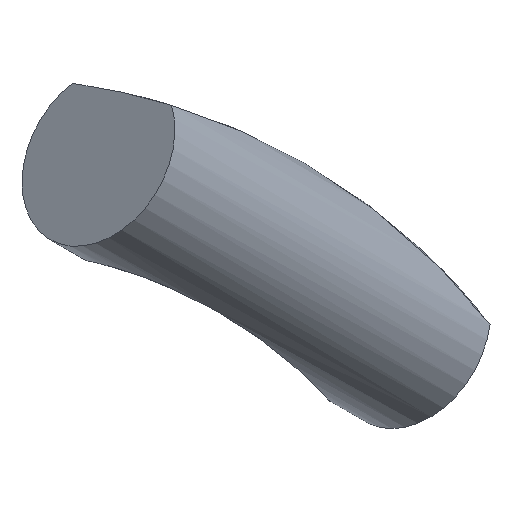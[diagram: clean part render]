
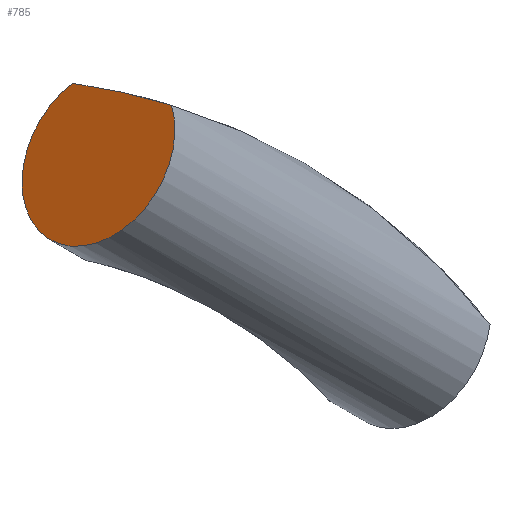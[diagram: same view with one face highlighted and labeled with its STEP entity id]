
A CAD part, left-side view. The second image highlights one B-rep face of the part: STEP entity #785.
In plain terms, the highlighted planar face has unit normal (-0.707, 0.612, 0.354).
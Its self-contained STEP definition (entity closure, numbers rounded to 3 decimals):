
#21 = EDGE_CURVE('',#22,#24,#26,.T.);
#22 = VERTEX_POINT('',#23);
#23 = CARTESIAN_POINT('',(86.054,56.196,
    75.679));
#24 = VERTEX_POINT('',#25);
#25 = CARTESIAN_POINT('',(90.548,60.793,
    76.704));
#26 = SURFACE_CURVE('',#27,(#32,#44),.PCURVE_S1.);
#27 = CIRCLE('',#28,4.5);
#28 = AXIS2_PLACEMENT_3D('',#29,#30,#31);
#29 = CARTESIAN_POINT('',(87.825,59.598,
    73.326));
#30 = DIRECTION('',(0.707,-0.612,-0.354));
#31 = DIRECTION('',(0.655,0.756,0.));
#32 = PCURVE('',#33,#38);
#33 = CYLINDRICAL_SURFACE('',#34,4.5);
#34 = AXIS2_PLACEMENT_3D('',#35,#36,#37);
#35 = CARTESIAN_POINT('',(87.825,59.598,73.326
    ));
#36 = DIRECTION('',(0.707,-0.612,-0.354));
#37 = DIRECTION('',(0.655,0.756,0.));
#38 = DEFINITIONAL_REPRESENTATION('',(#39),#43);
#39 = LINE('',#40,#41);
#40 = CARTESIAN_POINT('',(0.,0.));
#41 = VECTOR('',#42,1.);
#42 = DIRECTION('',(1.,0.));
#43 = ( GEOMETRIC_REPRESENTATION_CONTEXT(2) 
PARAMETRIC_REPRESENTATION_CONTEXT() REPRESENTATION_CONTEXT('2D SPACE',''
  ) );
#44 = PCURVE('',#45,#50);
#45 = PLANE('',#46);
#46 = AXIS2_PLACEMENT_3D('',#47,#48,#49);
#47 = CARTESIAN_POINT('',(87.825,59.598,73.326
    ));
#48 = DIRECTION('',(0.707,-0.612,-0.354));
#49 = DIRECTION('',(0.655,0.756,0.));
#50 = DEFINITIONAL_REPRESENTATION('',(#51),#55);
#51 = CIRCLE('',#52,4.5);
#52 = AXIS2_PLACEMENT_2D('',#53,#54);
#53 = CARTESIAN_POINT('',(0.,0.));
#54 = DIRECTION('',(1.,0.));
#55 = ( GEOMETRIC_REPRESENTATION_CONTEXT(2) 
PARAMETRIC_REPRESENTATION_CONTEXT() REPRESENTATION_CONTEXT('2D SPACE',''
  ) );
#97 = CYLINDRICAL_SURFACE('',#98,30.);
#98 = AXIS2_PLACEMENT_3D('',#99,#100,#101);
#99 = CARTESIAN_POINT('',(81.,65.,47.));
#100 = DIRECTION('',(1.,0.,0.));
#101 = DIRECTION('',(0.,0.,1.));
#785 = ADVANCED_FACE('',(#786),#45,.F.);
#786 = FACE_BOUND('',#787,.T.);
#787 = EDGE_LOOP('',(#788,#831));
#788 = ORIENTED_EDGE('',*,*,#789,.T.);
#789 = EDGE_CURVE('',#22,#24,#790,.T.);
#790 = SURFACE_CURVE('',#791,(#795,#802),.PCURVE_S1.);
#791 = ( BOUNDED_CURVE() B_SPLINE_CURVE(2,(#792,#793,#794),
.UNSPECIFIED.,.F.,.F.) B_SPLINE_CURVE_WITH_KNOTS((3,3),(68.061,
77.066),.PIECEWISE_BEZIER_KNOTS.) CURVE() 
GEOMETRIC_REPRESENTATION_ITEM() RATIONAL_B_SPLINE_CURVE((1.,
0.997,1.)) REPRESENTATION_ITEM('') );
#792 = CARTESIAN_POINT('',(86.054,56.196,
    75.679));
#793 = CARTESIAN_POINT('',(88.357,58.454,
    76.372));
#794 = CARTESIAN_POINT('',(90.548,60.793,76.704
    ));
#795 = PCURVE('',#45,#796);
#796 = DEFINITIONAL_REPRESENTATION('',(#797),#801);
#797 = ( BOUNDED_CURVE() B_SPLINE_CURVE(2,(#798,#799,#800),
.UNSPECIFIED.,.F.,.F.) B_SPLINE_CURVE_WITH_KNOTS((3,3),(68.061,
77.066),.PIECEWISE_BEZIER_KNOTS.) CURVE() 
GEOMETRIC_REPRESENTATION_ITEM() RATIONAL_B_SPLINE_CURVE((1.,
0.997,1.)) REPRESENTATION_ITEM('') );
#798 = CARTESIAN_POINT('',(-3.732,2.515));
#799 = CARTESIAN_POINT('',(-0.517,3.256));
#800 = CARTESIAN_POINT('',(2.686,3.61));
#801 = ( GEOMETRIC_REPRESENTATION_CONTEXT(2) 
PARAMETRIC_REPRESENTATION_CONTEXT() REPRESENTATION_CONTEXT('2D SPACE',''
  ) );
#802 = PCURVE('',#97,#803);
#803 = DEFINITIONAL_REPRESENTATION('',(#804),#830);
#804 = B_SPLINE_CURVE_WITH_KNOTS('',3,(#805,#806,#807,#808,#809,#810,
    #811,#812,#813,#814,#815,#816,#817,#818,#819,#820,#821,#822,#823,
    #824,#825,#826,#827,#828,#829),.UNSPECIFIED.,.F.,.F.,(4,1,1,1,1,1,1,
    1,1,1,1,1,1,1,1,1,1,1,1,1,1,1,4),(68.061,68.47,
    68.88,69.289,69.698,70.108,
    70.517,70.926,71.336,71.745,
    72.154,72.564,72.973,73.382,
    73.792,74.201,74.61,75.02,
    75.429,75.838,76.248,76.657,
    77.066),.QUASI_UNIFORM_KNOTS.);
#805 = CARTESIAN_POINT('',(0.298,5.054));
#806 = CARTESIAN_POINT('',(0.295,5.124));
#807 = CARTESIAN_POINT('',(0.291,5.263));
#808 = CARTESIAN_POINT('',(0.284,5.471));
#809 = CARTESIAN_POINT('',(0.276,5.679));
#810 = CARTESIAN_POINT('',(0.269,5.886));
#811 = CARTESIAN_POINT('',(0.262,6.094));
#812 = CARTESIAN_POINT('',(0.255,6.301));
#813 = CARTESIAN_POINT('',(0.248,6.507));
#814 = CARTESIAN_POINT('',(0.241,6.713));
#815 = CARTESIAN_POINT('',(0.234,6.919));
#816 = CARTESIAN_POINT('',(0.226,7.124));
#817 = CARTESIAN_POINT('',(0.219,7.329));
#818 = CARTESIAN_POINT('',(0.212,7.533));
#819 = CARTESIAN_POINT('',(0.205,7.737));
#820 = CARTESIAN_POINT('',(0.198,7.941));
#821 = CARTESIAN_POINT('',(0.191,8.143));
#822 = CARTESIAN_POINT('',(0.184,8.346));
#823 = CARTESIAN_POINT('',(0.176,8.548));
#824 = CARTESIAN_POINT('',(0.169,8.749));
#825 = CARTESIAN_POINT('',(0.162,8.95));
#826 = CARTESIAN_POINT('',(0.155,9.15));
#827 = CARTESIAN_POINT('',(0.148,9.349));
#828 = CARTESIAN_POINT('',(0.143,9.482));
#829 = CARTESIAN_POINT('',(0.141,9.548));
#830 = ( GEOMETRIC_REPRESENTATION_CONTEXT(2) 
PARAMETRIC_REPRESENTATION_CONTEXT() REPRESENTATION_CONTEXT('2D SPACE',''
  ) );
#831 = ORIENTED_EDGE('',*,*,#21,.F.);
